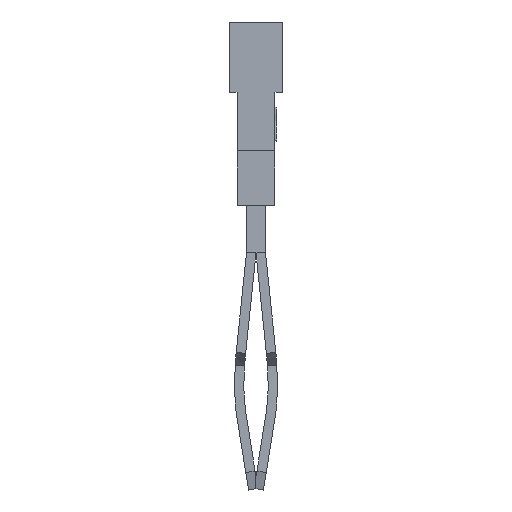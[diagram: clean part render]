
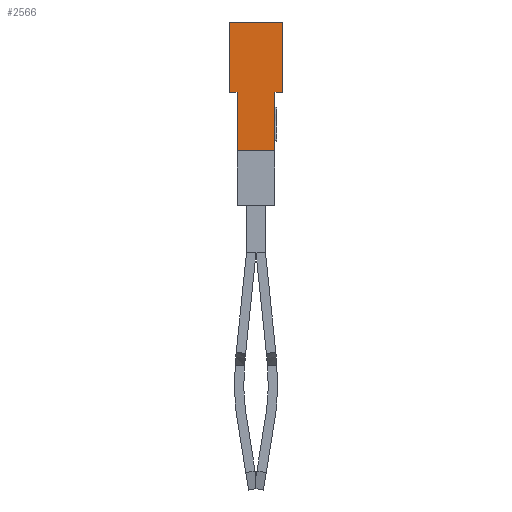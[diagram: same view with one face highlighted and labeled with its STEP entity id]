
A CAD part, left-side view. The second image highlights one B-rep face of the part: STEP entity #2566.
In plain terms, the highlighted planar face has unit normal (-1, 0, 0).
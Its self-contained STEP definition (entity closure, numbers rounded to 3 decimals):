
#2549=AXIS2_PLACEMENT_3D('Plane Axis2P3D',#2546,#2547,#2548) ;
#59=CARTESIAN_POINT('Vertex',(0.,0.4,21.022)) ;
#73=CARTESIAN_POINT('Vertex',(0.,0.,21.022)) ;
#76=CARTESIAN_POINT('Line Origine',(0.,0.2,21.022)) ;
#94=CARTESIAN_POINT('Vertex',(0.,2.8,21.022)) ;
#108=CARTESIAN_POINT('Vertex',(0.,2.4,21.022)) ;
#111=CARTESIAN_POINT('Line Origine',(0.,2.6,21.022)) ;
#998=CARTESIAN_POINT('Vertex',(0.,2.8,24.722)) ;
#1001=CARTESIAN_POINT('Line Origine',(0.,1.4,24.722)) ;
#1005=CARTESIAN_POINT('Vertex',(0.,0.,24.722)) ;
#1369=CARTESIAN_POINT('Line Origine',(0.,0.,22.872)) ;
#1474=CARTESIAN_POINT('Line Origine',(0.,2.8,22.872)) ;
#1735=CARTESIAN_POINT('Line Origine',(0.,2.4,19.472)) ;
#1739=CARTESIAN_POINT('Vertex',(0.,2.4,17.922)) ;
#1857=CARTESIAN_POINT('Line Origine',(0.,0.4,19.472)) ;
#1861=CARTESIAN_POINT('Vertex',(0.,0.4,17.922)) ;
#2546=CARTESIAN_POINT('Axis2P3D Location',(0.,-0.8,-4.678)) ;
#2551=CARTESIAN_POINT('Line Origine',(0.,1.4,17.922)) ;
#77=DIRECTION('Vector Direction',(0.,-1.,0.)) ;
#112=DIRECTION('Vector Direction',(0.,1.,0.)) ;
#1002=DIRECTION('Vector Direction',(0.,-1.,0.)) ;
#1370=DIRECTION('Vector Direction',(0.,0.,-1.)) ;
#1475=DIRECTION('Vector Direction',(0.,0.,-1.)) ;
#1736=DIRECTION('Vector Direction',(0.,0.,-1.)) ;
#1858=DIRECTION('Vector Direction',(0.,0.,1.)) ;
#2547=DIRECTION('Axis2P3D Direction',(-1.,0.,0.)) ;
#2548=DIRECTION('Axis2P3D XDirection',(0.,-1.,0.)) ;
#2552=DIRECTION('Vector Direction',(0.,-1.,0.)) ;
#78=VECTOR('Line Direction',#77,1.) ;
#113=VECTOR('Line Direction',#112,1.) ;
#1003=VECTOR('Line Direction',#1002,1.) ;
#1371=VECTOR('Line Direction',#1370,1.) ;
#1476=VECTOR('Line Direction',#1475,1.) ;
#1737=VECTOR('Line Direction',#1736,1.) ;
#1859=VECTOR('Line Direction',#1858,1.) ;
#2553=VECTOR('Line Direction',#2552,1.) ;
#2557=ORIENTED_EDGE('',*,*,#1863,.T.) ;
#2558=ORIENTED_EDGE('',*,*,#80,.T.) ;
#2559=ORIENTED_EDGE('',*,*,#1373,.T.) ;
#2560=ORIENTED_EDGE('',*,*,#1007,.T.) ;
#2561=ORIENTED_EDGE('',*,*,#1478,.T.) ;
#2562=ORIENTED_EDGE('',*,*,#115,.T.) ;
#2563=ORIENTED_EDGE('',*,*,#1741,.T.) ;
#2564=ORIENTED_EDGE('',*,*,#2555,.T.) ;
#2566=ADVANCED_FACE('ZQV_KU',(#2565),#2550,.T.) ;
#80=EDGE_CURVE('',#60,#74,#79,.T.) ;
#115=EDGE_CURVE('',#95,#109,#114,.F.) ;
#1007=EDGE_CURVE('',#1006,#999,#1004,.F.) ;
#1373=EDGE_CURVE('',#74,#1006,#1372,.F.) ;
#1478=EDGE_CURVE('',#999,#95,#1477,.T.) ;
#1741=EDGE_CURVE('',#109,#1740,#1738,.T.) ;
#1863=EDGE_CURVE('',#1862,#60,#1860,.T.) ;
#2555=EDGE_CURVE('',#1740,#1862,#2554,.T.) ;
#2556=EDGE_LOOP('',(#2557,#2558,#2559,#2560,#2561,#2562,#2563,#2564)) ;
#2565=FACE_OUTER_BOUND('',#2556,.T.) ;
#79=LINE('Line',#76,#78) ;
#114=LINE('Line',#111,#113) ;
#1004=LINE('Line',#1001,#1003) ;
#1372=LINE('Line',#1369,#1371) ;
#1477=LINE('Line',#1474,#1476) ;
#1738=LINE('Line',#1735,#1737) ;
#1860=LINE('Line',#1857,#1859) ;
#2554=LINE('Line',#2551,#2553) ;
#2550=PLANE('',#2549) ;
#60=VERTEX_POINT('',#59) ;
#74=VERTEX_POINT('',#73) ;
#95=VERTEX_POINT('',#94) ;
#109=VERTEX_POINT('',#108) ;
#999=VERTEX_POINT('',#998) ;
#1006=VERTEX_POINT('',#1005) ;
#1740=VERTEX_POINT('',#1739) ;
#1862=VERTEX_POINT('',#1861) ;
